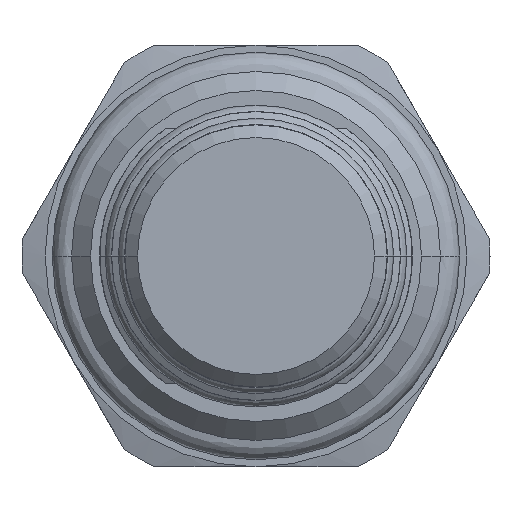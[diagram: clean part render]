
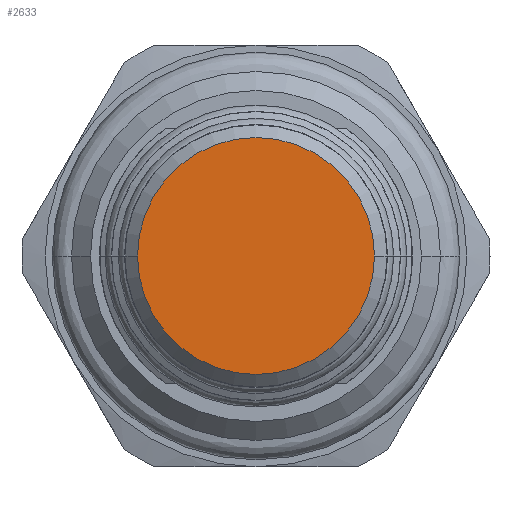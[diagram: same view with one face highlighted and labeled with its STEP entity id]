
A CAD part, front view. The second image highlights one B-rep face of the part: STEP entity #2633.
In plain terms, the highlighted planar face has unit normal (0, -1, 0).
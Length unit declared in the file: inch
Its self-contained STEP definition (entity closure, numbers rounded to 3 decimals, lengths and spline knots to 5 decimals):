
#1036=CARTESIAN_POINT('',(0.,-1.813,0.));
#1037=DIRECTION('',(0.,-1.,0.));
#1038=DIRECTION('',(1.,0.,0.));
#1039=AXIS2_PLACEMENT_3D('',#1036,#1037,#1038);
#1050=CARTESIAN_POINT('',(0.,-1.813,0.));
#1051=DIRECTION('',(0.,1.,0.));
#1052=DIRECTION('',(1.,0.,0.));
#1053=AXIS2_PLACEMENT_3D('',#1050,#1051,#1052);
#1141=CARTESIAN_POINT('',(0.281,-1.813,0.));
#1142=CARTESIAN_POINT('',(-0.281,-1.813,0.));
#1143=VERTEX_POINT('',#1141);
#1144=VERTEX_POINT('',#1142);
#2624=CARTESIAN_POINT('',(0.,-1.813,0.));
#2625=DIRECTION('',(0.,-1.,0.));
#2626=DIRECTION('',(-1.,0.,0.));
#2627=AXIS2_PLACEMENT_3D('',#2624,#2625,#2626);
#2628=PLANE('',#2627);
#2629=ORIENTED_EDGE('',*,*,#2604,.F.);
#2630=ORIENTED_EDGE('',*,*,#2618,.T.);
#2631=EDGE_LOOP('',(#2629,#2630));
#2632=FACE_OUTER_BOUND('',#2631,.F.);
#2633=ADVANCED_FACE('',(#2632),#2628,.T.);
#1040=CIRCLE('',#1039,0.281);
#1054=CIRCLE('',#1053,0.281);
#2604=EDGE_CURVE('',#1143,#1144,#1040,.T.);
#2618=EDGE_CURVE('',#1143,#1144,#1054,.T.);
